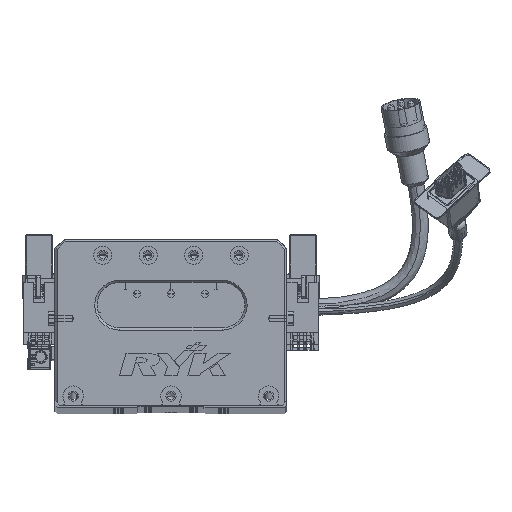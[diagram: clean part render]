
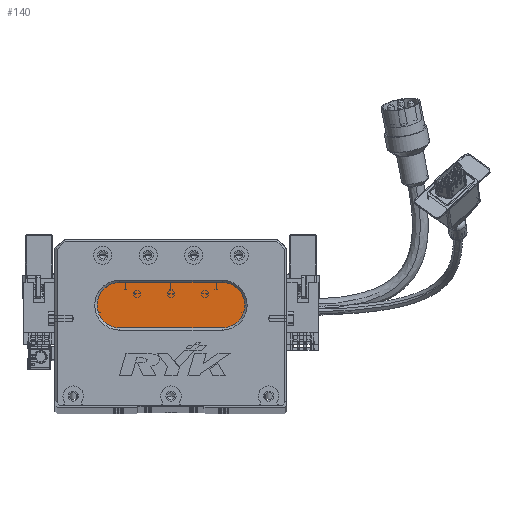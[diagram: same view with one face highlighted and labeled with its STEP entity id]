
A CAD part, top view. The second image highlights one B-rep face of the part: STEP entity #140.
In plain terms, the highlighted planar face has unit normal (0, 0, 1) as drawn and (0, 0, -1) by its records, which use the part's own axes.
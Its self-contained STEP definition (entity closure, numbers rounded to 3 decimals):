
#140 = ADVANCED_FACE ( 'NONE', ( #34976 ), #58113, .T. ) ;
#1738 = CARTESIAN_POINT ( 'NONE',  ( 28.5, 54., 13. ) ) ;
#9484 = VERTEX_POINT ( 'NONE', #25751 ) ;
#11940 = ORIENTED_EDGE ( 'NONE', *, *, #45004, .T. ) ;
#12573 = AXIS2_PLACEMENT_3D ( 'NONE', #33325, #50514, #50257 ) ;
#12632 = DIRECTION ( 'NONE',  ( 1., 0., 0. ) ) ;
#13184 = ORIENTED_EDGE ( 'NONE', *, *, #66304, .T. ) ;
#15430 = VERTEX_POINT ( 'NONE', #27921 ) ;
#15490 = EDGE_CURVE ( 'NONE', #15430, #69933, #68039, .T. ) ;
#16058 = CIRCLE ( 'NONE', #12573, 10. ) ;
#16652 = AXIS2_PLACEMENT_3D ( 'NONE', #58619, #69611, #41439 ) ;
#17593 = VECTOR ( 'NONE', #43321, 1000. ) ;
#18412 = CARTESIAN_POINT ( 'NONE',  ( 73.5, 54., 13. ) ) ;
#18666 = AXIS2_PLACEMENT_3D ( 'NONE', #63189, #57330, #69047 ) ;
#20368 = CARTESIAN_POINT ( 'NONE',  ( 73.5, 34., 13. ) ) ;
#21041 = VERTEX_POINT ( 'NONE', #18412 ) ;
#25751 = CARTESIAN_POINT ( 'NONE',  ( 73.5, 34., 13. ) ) ;
#27614 = LINE ( 'NONE', #20368, #17593 ) ;
#27921 = CARTESIAN_POINT ( 'NONE',  ( 28.5, 34., 13. ) ) ;
#30291 = EDGE_LOOP ( 'NONE', ( #68687, #37042, #44796, #13184, #11940 ) ) ;
#33325 = CARTESIAN_POINT ( 'NONE',  ( 73.5, 44., 13. ) ) ;
#34976 = FACE_OUTER_BOUND ( 'NONE', #30291, .T. ) ;
#36663 = LINE ( 'NONE', #42737, #56898 ) ;
#37042 = ORIENTED_EDGE ( 'NONE', *, *, #52754, .T. ) ;
#40921 = DIRECTION ( 'NONE',  ( -1., 0., 0. ) ) ;
#41439 = DIRECTION ( 'NONE',  ( -1., 0., 0. ) ) ;
#42737 = CARTESIAN_POINT ( 'NONE',  ( 73.5, 54., 13. ) ) ;
#43321 = DIRECTION ( 'NONE',  ( -1., 0., 0. ) ) ;
#44796 = ORIENTED_EDGE ( 'NONE', *, *, #15490, .T. ) ;
#45004 = EDGE_CURVE ( 'NONE', #49153, #21041, #36663, .T. ) ;
#49153 = VERTEX_POINT ( 'NONE', #1738 ) ;
#50257 = DIRECTION ( 'NONE',  ( -1., 0., 0. ) ) ;
#50514 = DIRECTION ( 'NONE',  ( 0., 0., -1. ) ) ;
#52015 = DIRECTION ( 'NONE',  ( 0., 0., -1. ) ) ;
#52754 = EDGE_CURVE ( 'NONE', #9484, #15430, #27614, .T. ) ;
#56474 = EDGE_CURVE ( 'NONE', #21041, #9484, #16058, .T. ) ;
#56898 = VECTOR ( 'NONE', #12632, 1000. ) ;
#57330 = DIRECTION ( 'NONE',  ( 0., 0., -1. ) ) ;
#58113 = PLANE ( 'NONE',  #67094 ) ;
#58619 = CARTESIAN_POINT ( 'NONE',  ( 28.5, 44., 13. ) ) ;
#63062 = CIRCLE ( 'NONE', #16652, 10. ) ;
#63189 = CARTESIAN_POINT ( 'NONE',  ( 28.5, 44., 13. ) ) ;
#64219 = CARTESIAN_POINT ( 'NONE',  ( 18.5, 44., 13. ) ) ;
#66304 = EDGE_CURVE ( 'NONE', #69933, #49153, #63062, .T. ) ;
#67094 = AXIS2_PLACEMENT_3D ( 'NONE', #75201, #52015, #40921 ) ;
#68039 = CIRCLE ( 'NONE', #18666, 10. ) ;
#68687 = ORIENTED_EDGE ( 'NONE', *, *, #56474, .T. ) ;
#69047 = DIRECTION ( 'NONE',  ( -1., 0., 0. ) ) ;
#69611 = DIRECTION ( 'NONE',  ( 0., 0., -1. ) ) ;
#69933 = VERTEX_POINT ( 'NONE', #64219 ) ;
#75201 = CARTESIAN_POINT ( 'NONE',  ( 73.5, 44., 13. ) ) ;
